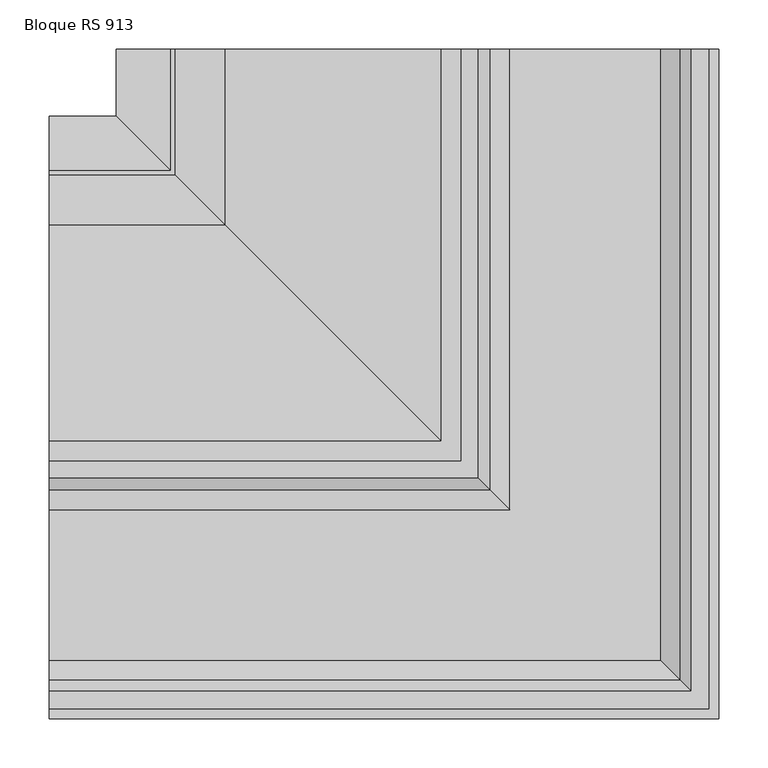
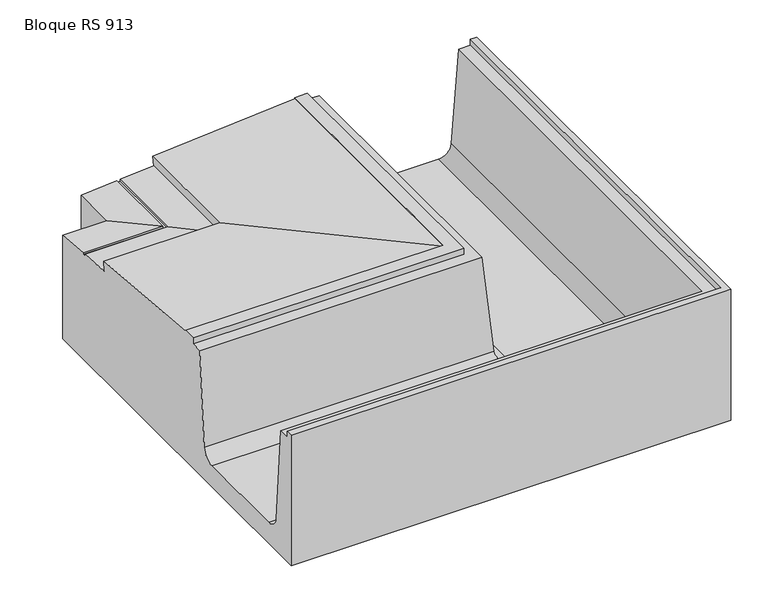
"""IFC4 building model written with IfcOpenShell, lengths in millimetres: proxy geometry, ROSA GRES_RS 913 : Bloque RS 913."""

from ifc_helpers import new_model, si_unit, frame, origin, place, context, project, spatial, polyline, circle_curve, ellipse_curve, source, transform, mapped, element, save
from ifc_brep_helpers import plane_surface, revolved_surface, advanced_brep


def bloque_rs_913_14df28d0(model_context):
    return source(origin(), model_context, "Body", "AdvancedBrep", [
        advanced_brep(
        [(-55.7703405, -598.836227, 206.3460936), (-55.7703405, -587.1239808, 55.2086635), (-55.7703405, -567.1837649, 36.7539108), (-55.7703405, -413.4886891, 36.7539108), (-55.7703405, -393.5484732, 55.2086635), (-55.7703405, -381.836227, 206.3460936), (-55.7703405, -363.836227, 206.3460936), (-55.7703405, -363.836227, 216.3460936), (-55.7703405, -343.836227, 216.3460936), (-55.7703405, -343.836227, 214.7181867), (-55.7703405, -123.836227, 196.8112099), (-55.7703405, -125.1172881, 181.0724591), (-55.7703405, -72.836227, 176.8170239), (-55.7703405, -72.836227, 173.8170239), (-55.7703405, -67.836227, 173.8170239), (-55.7703405, -67.836227, 176.4100471), (-55.7703405, -12.836227, 171.9333029), (-55.7703405, -12.836227, 1.7539108), (-55.7703405, -626.836227, 1.7539108), (-55.7703405, -626.836227, 216.3460936), (-55.7703405, -616.836227, 216.3460936), (-55.7703405, -616.836227, 206.3460936), (598.8, 55.7341135, 206.3460936), (616.8, 55.7341135, 206.3460936), (616.8, 55.7341135, 216.3460936), (626.8, 55.7341135, 216.3460936), (626.8, 55.7341135, 1.7539108), (12.8, 55.7341135, 1.7539108), (12.8, 55.7341135, 171.9333029), (67.8, 55.7341135, 176.4100471), (67.8, 55.7341135, 173.8170239), (72.8, 55.7341135, 173.8170239), (72.8, 55.7341135, 176.8170239), (125.0810611, 55.7341135, 181.0724591), (123.8, 55.7341135, 196.8112099), (343.8, 55.7341135, 214.7181867), (343.8, 55.7341135, 216.3460936), (363.8, 55.7341135, 216.3460936), (363.8, 55.7341135, 206.3460936), (381.8, 55.7341135, 206.3460936), (393.5122462, 55.7341135, 55.2086635), (413.4524621, 55.7341135, 36.7539108), (567.1475379, 55.7341135, 36.7539108), (587.0877538, 55.7341135, 55.2086635), (616.8, -616.836227, 206.3460936), (598.8, -598.836227, 206.3460936), (616.8, -616.836227, 216.3460936), (626.8, -626.836227, 216.3460936), (626.8, -626.836227, 1.7539108), (12.8, -12.836227, 1.7539108), (12.8, -12.836227, 171.9333029), (67.8, -67.836227, 176.4100471), (67.8, -67.836227, 173.8170239), (72.8, -72.836227, 173.8170239), (72.8, -72.836227, 176.8170239), (125.0810611, -125.1172881, 181.0724591), (123.8, -123.836227, 196.8112099), (343.8, -343.836227, 214.7181867), (343.8, -343.836227, 216.3460936), (363.8, -363.836227, 216.3460936), (363.8, -363.836227, 206.3460936), (381.8, -381.836227, 206.3460936), (393.5122462, -393.5484732, 55.2086635), (413.4524621, -413.4886891, 36.7539108), (567.1475379, -567.1837649, 36.7539108), (587.0877538, -587.1239808, 55.2086635)],
        [
            (0, 1),
            (1, 2, circle_curve(frame((-55.7703405, -567.1837649, 56.7539108), z_axis=(1.0, 0.0, 0.0), x_axis=(0.0, -1.0, 0.0)), 20.0)),
            (2, 3),
            (3, 4, circle_curve(frame((-55.7703405, -413.4886891, 56.7539108), z_axis=(1.0, 0.0, 0.0), x_axis=(0.0, -1.0, 0.0)), 20.0)),
            (4, 5),
            (5, 6),
            (6, 7),
            (7, 8),
            (8, 9),
            (9, 10),
            (10, 11),
            (11, 12),
            (12, 13),
            (13, 14),
            (14, 15),
            (15, 16),
            (16, 17),
            (17, 18),
            (18, 19),
            (19, 20),
            (20, 21),
            (21, 0),
            (22, 23),
            (23, 24),
            (24, 25),
            (25, 26),
            (26, 27),
            (27, 28),
            (28, 29),
            (29, 30),
            (30, 31),
            (31, 32),
            (32, 33),
            (33, 34),
            (34, 35),
            (35, 36),
            (36, 37),
            (37, 38),
            (38, 39),
            (39, 40),
            (40, 41, circle_curve(frame((413.4524621, 55.7341135, 56.7539108), z_axis=(0.0, -1.0, 0.0), x_axis=(1.0, 0.0, 0.0)), 20.0)),
            (41, 42),
            (42, 43, circle_curve(frame((567.1475379, 55.7341135, 56.7539108), z_axis=(0.0, -1.0, 0.0), x_axis=(1.0, 0.0, 0.0)), 20.0)),
            (43, 22),
            (21, 44),
            (44, 23),
            (22, 45),
            (45, 0),
            (20, 46),
            (46, 44),
            (19, 47),
            (47, 25),
            (24, 46),
            (18, 48),
            (48, 47),
            (17, 49),
            (49, 27),
            (26, 48),
            (16, 50),
            (50, 49),
            (15, 51),
            (51, 50),
            (14, 52),
            (52, 51),
            (13, 53),
            (53, 31),
            (30, 52),
            (12, 54),
            (54, 53),
            (11, 55),
            (55, 54),
            (10, 56),
            (56, 55),
            (9, 57),
            (57, 56),
            (8, 58),
            (58, 57),
            (7, 59),
            (59, 37),
            (36, 58),
            (6, 60),
            (60, 59),
            (5, 61),
            (61, 39),
            (38, 60),
            (4, 62),
            (62, 61),
            (3, 63),
            (63, 62, ellipse_curve(frame((413.4524621, -413.4886891, 56.7539108), z_axis=(0.7071067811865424, 0.7071067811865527, 0.0), x_axis=(0.7071067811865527, -0.7071067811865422, 0.0)), 28.2842712, 20.0)),
            (2, 64),
            (64, 42),
            (41, 63),
            (1, 65),
            (65, 64, ellipse_curve(frame((567.1475379, -567.1837649, 56.7539108), z_axis=(0.7071067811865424, 0.7071067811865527, 0.0), x_axis=(0.7071067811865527, -0.7071067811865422, 0.0)), 28.2842712, 20.0)),
            (45, 65),
            (50, 28),
            (51, 29),
            (54, 32),
            (55, 33),
            (56, 34),
            (57, 35),
            (62, 40),
            (65, 43),
        ],
        [
            plane_surface(frame((-55.7703405, -558.2658865, 0.0), z_axis=(-1.0, 0.0, 0.0), x_axis=(0.0, 0.0, 1.0))),
            plane_surface(frame((558.2296595, 55.7341135, 0.0), z_axis=(0.0, 1.0, 0.0), x_axis=(0.0, 0.0, 1.0))),
            plane_surface(frame((-55.7703405, -598.836227, 206.3460936), z_axis=(0.0, 0.0, 1.0), x_axis=(1.0, 0.0, 0.0))),
            plane_surface(frame((-55.7703405, -616.836227, 206.3460936), z_axis=(0.0, 1.0, 0.0), x_axis=(1.0, 0.0, 0.0))),
            plane_surface(frame((-55.7703405, -616.836227, 216.3460936), z_axis=(0.0, 0.0, 1.0), x_axis=(1.0, 0.0, 0.0))),
            plane_surface(frame((-55.7703405, -626.836227, 216.3460936), z_axis=(0.0, -1.0, 0.0), x_axis=(1.0, 0.0, 0.0))),
            plane_surface(frame((-55.7703405, -626.836227, 1.7539108), z_axis=(0.0, 0.0, -1.0), x_axis=(1.0, 0.0, 0.0))),
            plane_surface(frame((-55.7703405, -12.836227, 1.7539108), z_axis=(0.0, 1.0, 0.0), x_axis=(1.0, 0.0, 0.0))),
            plane_surface(frame((-55.7703405, -12.836227, 171.9333029), z_axis=(0.0, 0.08112705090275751, 0.9967037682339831), x_axis=(1.0, 0.0, 0.0))),
            plane_surface(frame((-55.7703405, -67.836227, 176.4100471), z_axis=(0.0, -1.0, 0.0), x_axis=(1.0, 0.0, 0.0))),
            plane_surface(frame((-55.7703405, -67.836227, 173.8170239), z_axis=(0.0, 0.0, 1.0), x_axis=(1.0, 0.0, 0.0))),
            plane_surface(frame((-55.7703405, -72.836227, 173.8170239), z_axis=(0.0, 1.0, 0.0), x_axis=(1.0, 0.0, 0.0))),
            plane_surface(frame((-55.7703405, -72.836227, 176.8170239), z_axis=(0.0, 0.08112705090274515, 0.9967037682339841), x_axis=(1.0, 0.0, 0.0))),
            plane_surface(frame((-55.7703405, -125.1172881, 181.0724591), z_axis=(0.0, 0.9967037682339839, -0.08112705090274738), x_axis=(1.0, 0.0, 0.0))),
            plane_surface(frame((-55.7703405, -123.836227, 196.8112099), z_axis=(0.0, 0.08112705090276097, 0.9967037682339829), x_axis=(1.0, 0.0, 0.0))),
            plane_surface(frame((-55.7703405, -343.836227, 214.7181867), z_axis=(0.0, 1.0, 0.0), x_axis=(1.0, 0.0, 0.0))),
            plane_surface(frame((-55.7703405, -343.836227, 216.3460936), z_axis=(0.0, 0.0, 1.0), x_axis=(1.0, 0.0, 0.0))),
            plane_surface(frame((-55.7703405, -363.836227, 216.3460936), z_axis=(0.0, -1.0, 0.0), x_axis=(1.0, 0.0, 0.0))),
            plane_surface(frame((-55.7703405, -363.836227, 206.3460936), z_axis=(0.0, 0.0, 1.0), x_axis=(1.0, 0.0, 0.0))),
            plane_surface(frame((-55.7703405, -381.836227, 206.3460936), z_axis=(0.0, -0.9970107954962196, 0.07726236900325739), x_axis=(1.0, 0.0, 0.0))),
            revolved_surface(polyline([(433.4524620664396, -433.4886891, 56.7539108), (-55.7703405, -433.4886891, 56.7539108)]), (-55.7703405, -413.4886891, 56.7539108), (1.0, 0.0, 0.0)),
            plane_surface(frame((-55.7703405, -413.4886891, 36.7539108), z_axis=(0.0, 0.0, 1.0), x_axis=(1.0, 0.0, 0.0))),
            revolved_surface(polyline([(587.1475378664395, -587.1837649, 56.7539108), (-55.7703405, -587.1837649, 56.7539108)]), (-55.7703405, -567.1837649, 56.7539108), (1.0, 0.0, 0.0)),
            plane_surface(frame((-55.7703405, -587.1239808, 55.2086635), z_axis=(0.0, 0.9970107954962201, 0.0772623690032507), x_axis=(1.0, 0.0, 0.0))),
            plane_surface(frame((616.8, -616.836227, 206.3460936), z_axis=(-1.0, 0.0, 0.0), x_axis=(0.0, 1.0, 0.0))),
            plane_surface(frame((626.8, -626.836227, 216.3460936), z_axis=(1.0, 0.0, 0.0), x_axis=(0.0, 1.0, 0.0))),
            plane_surface(frame((12.8, -12.836227, 1.7539108), z_axis=(-1.0, 0.0, 0.0), x_axis=(0.0, 1.0, 0.0))),
            plane_surface(frame((12.8, -12.836227, 171.9333029), z_axis=(-0.08112705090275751, 0.0, 0.9967037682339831), x_axis=(0.0, 1.0, 0.0))),
            plane_surface(frame((67.8, -67.836227, 176.4100471), z_axis=(1.0, 0.0, 0.0), x_axis=(0.0, 1.0, 0.0))),
            plane_surface(frame((72.8, -72.836227, 173.8170239), z_axis=(-1.0, 0.0, 0.0), x_axis=(0.0, 1.0, 0.0))),
            plane_surface(frame((72.8, -72.836227, 176.8170239), z_axis=(-0.08112705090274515, 0.0, 0.9967037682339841), x_axis=(0.0, 1.0, 0.0))),
            plane_surface(frame((125.0810611, -125.1172881, 181.0724591), z_axis=(-0.9967037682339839, 0.0, -0.08112705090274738), x_axis=(0.0, 1.0, 0.0))),
            plane_surface(frame((123.8, -123.836227, 196.8112099), z_axis=(-0.08112705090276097, 0.0, 0.9967037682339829), x_axis=(0.0, 1.0, 0.0))),
            plane_surface(frame((343.8, -343.836227, 214.7181867), z_axis=(-1.0, 0.0, 0.0), x_axis=(0.0, 1.0, 0.0))),
            plane_surface(frame((363.8, -363.836227, 216.3460936), z_axis=(1.0, 0.0, 0.0), x_axis=(0.0, 1.0, 0.0))),
            plane_surface(frame((381.8, -381.836227, 206.3460936), z_axis=(0.9970107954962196, 0.0, 0.07726236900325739), x_axis=(0.0, 1.0, 0.0))),
            revolved_surface(polyline([(433.4524621, 55.734113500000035, 56.7539108), (433.4524621, -433.4886890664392, 56.7539108)]), (413.4524621, -558.2658865, 56.7539108), (0.0, 1.0, 0.0)),
            revolved_surface(polyline([(587.1475379, 55.734113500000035, 56.7539108), (587.1475379, -587.1837648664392, 56.7539108)]), (567.1475379, -558.2658865, 56.7539108), (0.0, 1.0, 0.0)),
            plane_surface(frame((587.0877538, -587.1239808, 55.2086635), z_axis=(-0.9970107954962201, 0.0, 0.0772623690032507), x_axis=(0.0, 1.0, 0.0))),
        ],
        [
            (0, [[1, 2, 3, 4, 5, 6, 7, 8, 9, 10, 11, 12, 13, 14, 15, 16, 17, 18, 19, 20, 21, 22]]),
            (1, [[23, 24, 25, 26, 27, 28, 29, 30, 31, 32, 33, 34, 35, 36, 37, 38, 39, 40, 41, 42, 43, 44]]),
            (2, [[45, 46, -23, 47, 48, -22]]),
            (3, [[49, 50, -45, -21]]),
            (4, [[51, 52, -25, 53, -49, -20]]),
            (5, [[54, 55, -51, -19]]),
            (6, [[56, 57, -27, 58, -54, -18]]),
            (7, [[59, 60, -56, -17]]),
            (8, [[61, 62, -59, -16]]),
            (9, [[63, 64, -61, -15]]),
            (10, [[65, 66, -31, 67, -63, -14]]),
            (11, [[68, 69, -65, -13]]),
            (12, [[70, 71, -68, -12]]),
            (13, [[72, 73, -70, -11]]),
            (14, [[74, 75, -72, -10]]),
            (15, [[76, 77, -74, -9]]),
            (16, [[78, 79, -37, 80, -76, -8]]),
            (17, [[81, 82, -78, -7]]),
            (18, [[83, 84, -39, 85, -81, -6]]),
            (19, [[86, 87, -83, -5]]),
            (20, [[88, 89, -86, -4]]),
            (21, [[90, 91, -42, 92, -88, -3]]),
            (22, [[93, 94, -90, -2]]),
            (23, [[-48, 95, -93, -1]]),
            (24, [[-53, -24, -46, -50]]),
            (25, [[-58, -26, -52, -55]]),
            (26, [[96, -28, -57, -60]]),
            (27, [[97, -29, -96, -62]]),
            (28, [[-67, -30, -97, -64]]),
            (29, [[98, -32, -66, -69]]),
            (30, [[99, -33, -98, -71]]),
            (31, [[100, -34, -99, -73]]),
            (32, [[101, -35, -100, -75]]),
            (33, [[-80, -36, -101, -77]]),
            (34, [[-85, -38, -79, -82]]),
            (35, [[102, -40, -84, -87]]),
            (36, [[-92, -41, -102, -89]]),
            (37, [[103, -43, -91, -94]]),
            (38, [[-47, -44, -103, -95]]),
        ],
    ),
    ])


if __name__ == "__main__":
    model = new_model("IFC4")
    model_context = context("Model", 3, world=origin())
    ifc_project = project(units=[si_unit("LENGTHUNIT", "METRE", prefix="MILLI")], contexts=[model_context])
    site = spatial("IfcSite", under=ifc_project)
    building = spatial("IfcBuilding", under=site)
    placement = place(None, origin())
    bloque_rs_913_shape = bloque_rs_913_14df28d0(model_context)
    element("IfcBuildingElementProxy", 1, Name="ROSA GRES_RS 913 : Bloque RS 913", ObjectType="ROSA GRES_RS 913 : Bloque RS 913", at=placement, inside=building, context=model_context, shape_type="MappedRepresentation", body=[
        mapped(bloque_rs_913_shape, transform((0.0, 0.0, 0.0), x_axis=(1.0, 0.0, 0.0), y_axis=(0.0, 1.0, 0.0), z_axis=(0.0, 0.0, 1.0))),
    ])
    save(model, "model.ifc")
